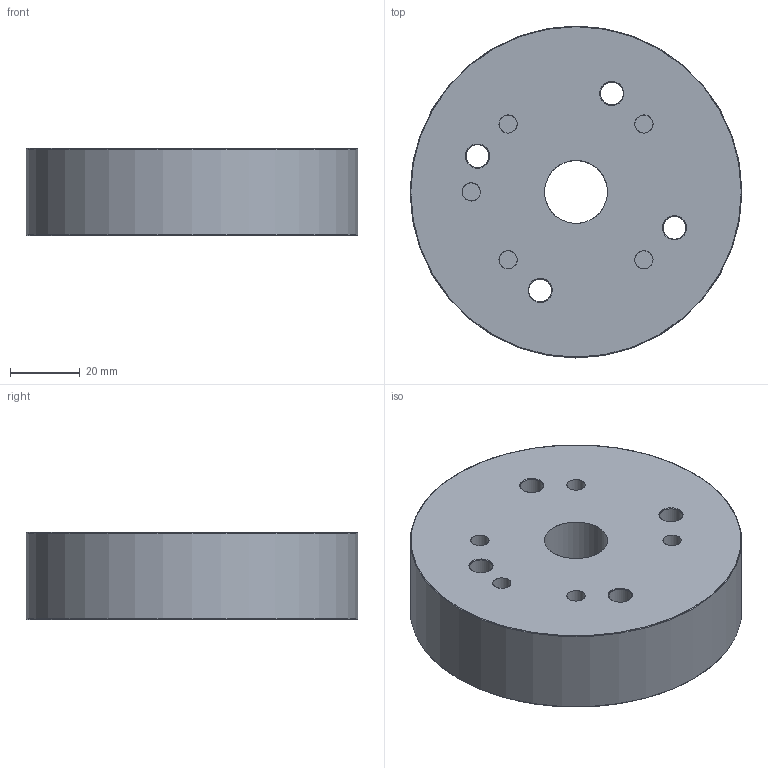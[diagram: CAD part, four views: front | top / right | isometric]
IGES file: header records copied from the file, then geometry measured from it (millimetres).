
Start section: Iges File created by ES
Global section: native system: ES; preprocessor: IGES.4B00; organization: JingDiao; units: millimetre
Bounding box: 95 x 95 x 25 mm (x, y, z)
Surface area: 27172.1 mm2 (no closed solid volume)
Topology: 0 solids, 0 shells, 54 faces, 847 edges, 810 vertices
Faces by surface type: revolution 37, bspline 17
